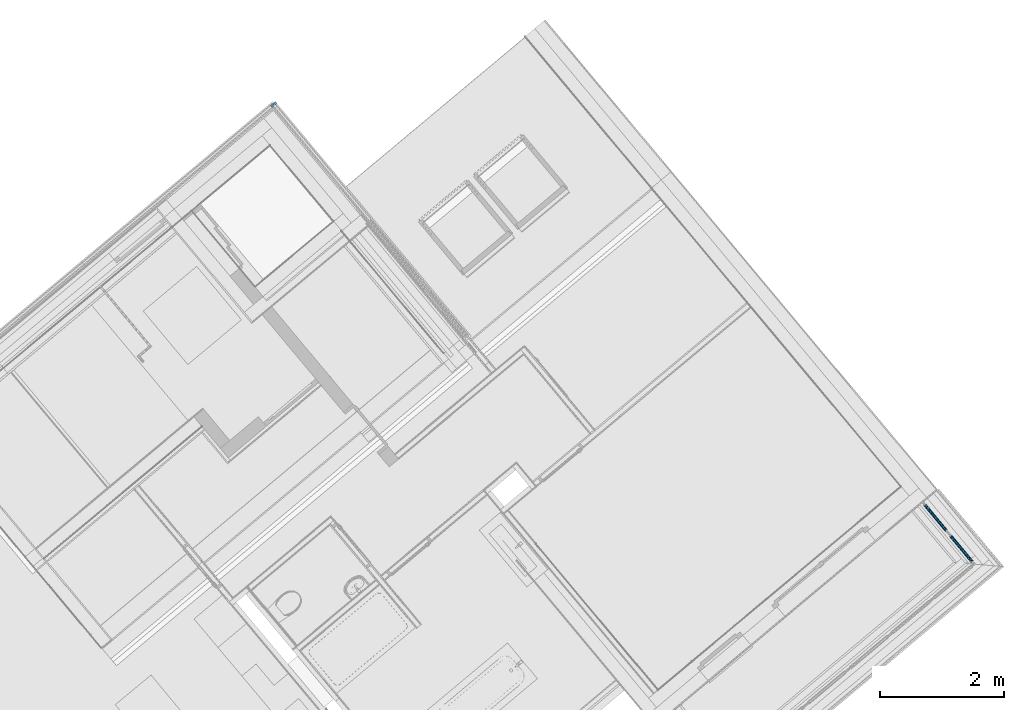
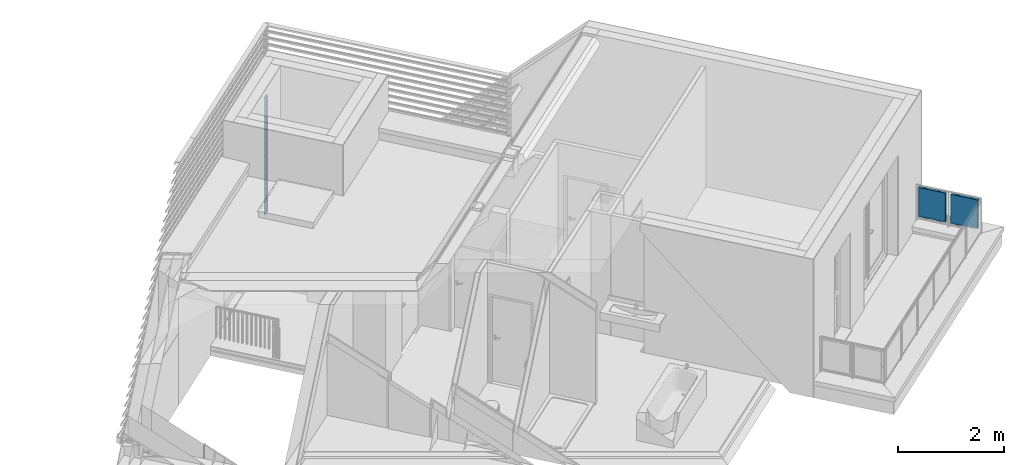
# One storey, part 45 of 50: 22 building element parts, 2 elements without a shape of their own.
"""IFC4 building model written with IfcOpenShell, lengths in metres."""

from ifc_helpers import new_model, entity, si_unit, converted_unit, derived_unit, direction, frame, origin_with_axes, place, context, subcontext, project, spatial, polygons, material, type_object, element, aggregate, save


model = new_model("IFC4")

# Units and contexts
model_context = context("Model", 3, precision=1e-05, world=origin_with_axes(), true_north=direction((0.0, 1.0)))
body_context = subcontext(model_context, "Body", "Model", "MODEL_VIEW")
ifc_project = project(units=[si_unit("LENGTHUNIT", "METRE"), si_unit("AREAUNIT", "SQUARE_METRE"), si_unit("VOLUMEUNIT", "CUBIC_METRE"), converted_unit("PLANEANGLEUNIT", "DEGREE", entity("IfcPlaneAngleMeasure", 0.0174532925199), si_unit("PLANEANGLEUNIT", "RADIAN"), dimensions=[0, 0, 0, 0, 0, 0, 0]), converted_unit("TIMEUNIT", "Year", entity("IfcTimeMeasure", 31556926.0), si_unit("TIMEUNIT", "SECOND"), dimensions=[0, 0, 1, 0, 0, 0, 0]), si_unit("MASSUNIT", "GRAM", prefix="KILO"), si_unit("THERMODYNAMICTEMPERATUREUNIT", "DEGREE_CELSIUS"), si_unit("LUMINOUSINTENSITYUNIT", "LUMEN"), si_unit("ENERGYUNIT", "JOULE", prefix="MEGA"), derived_unit("THERMALCONDUCTANCEUNIT", [(si_unit("POWERUNIT", "WATT"), 1), (si_unit("LENGTHUNIT", "METRE"), -1), (si_unit("THERMODYNAMICTEMPERATUREUNIT", "KELVIN"), -1)]), derived_unit("SPECIFICHEATCAPACITYUNIT", [(si_unit("ENERGYUNIT", "JOULE"), 1), (si_unit("MASSUNIT", "GRAM", prefix="KILO"), -1), (si_unit("THERMODYNAMICTEMPERATUREUNIT", "KELVIN"), -1)]), derived_unit("MASSDENSITYUNIT", [(si_unit("MASSUNIT", "GRAM", prefix="KILO"), 1), (si_unit("VOLUMEUNIT", "CUBIC_METRE"), -1)])], contexts=[model_context])

# Site, building, storey, space
site_placement = place(None, frame((-0.00153261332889, -0.00661245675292, 0.0), z_axis=(0.0, 0.0, 1.0), x_axis=(1.0, 0.0, 0.0)))
site = spatial("IfcSite", under=ifc_project, at=site_placement, Name="Gelände", CompositionType="ELEMENT")
building_placement = place(site_placement, origin_with_axes())
building = spatial("IfcBuilding", under=site, at=building_placement, Name="Gebäude", CompositionType="ELEMENT")
storey_placement = place(building_placement, frame((0.0, 0.0, 8.66), z_axis=(0.0, 0.0, 1.0), x_axis=(1.0, 0.0, 0.0)))
storey = spatial("IfcBuildingStorey", under=building, at=storey_placement, Name="DG2", CompositionType="ELEMENT", Elevation=8.66)
space_1_placement = place(storey_placement, frame((6.83696947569, 22.4856827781, 0.22), z_axis=(0.0, 0.0, 1.0), x_axis=(0.767365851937, 0.641209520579, 0.0)))
space_1 = spatial("IfcSpace", under=storey, at=space_1_placement, CompositionType="ELEMENT", PredefinedType="NOTDEFINED")

# Curtain wall, building element parts
curtain_wall_type = type_object("IfcCurtainWallType", Name="Fassadentyp", PredefinedType="NOTDEFINED")
curtain_wall_placement = place(space_1_placement, frame((-0.611260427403, 4.89750550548, 0.1), z_axis=(0.0, 0.0, 1.0), x_axis=(0.767365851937, -0.641209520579, 0.0)))
curtain_wall = element("IfcCurtainWall", 1, at=curtain_wall_placement, inside=space_1, type_object=curtain_wall_type, Name="Fassade-001", PredefinedType="NOTDEFINED")
ifc_material_1 = material(Name="Blech")
building_element_part_1_placement = place(curtain_wall_placement, origin_with_axes())
building_element_part_1 = element("IfcBuildingElementPart", 2, at=building_element_part_1_placement, material=ifc_material_1, Name="Blech", PredefinedType="NOTDEFINED", context=body_context, shape_type="Tessellation", body=[
    polygons([(-1.57788459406, 1.86580520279, 0.15), (-1.55485923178, 1.88503623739, 0.15), (-1.54203854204, 1.86968599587, 0.15), (-1.51517561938, 1.8921222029, 0.15), (-1.54081699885, 1.92282268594, 0.15), (-1.61756820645, 1.85871923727, 0.15), (-1.59192682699, 1.82801875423, 0.15), (-1.56506390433, 1.85045496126, 0.15), (-1.57788459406, 1.86580520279, 0.0), (-1.55485923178, 1.88503623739, 0.0), (-1.54203854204, 1.86968599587, 0.02), (-1.51517561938, 1.8921222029, 0.02), (-1.54081699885, 1.92282268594, -0.02), (-1.61756820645, 1.85871923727, -0.02), (-1.59192682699, 1.82801875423, 0.02), (-1.56506390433, 1.85045496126, 0.02)], [[[1, 2, 3, 4, 5, 6, 7, 8]], [[2, 1, 9, 10]], [[11, 3, 2, 10]], [[3, 11, 12, 4]], [[5, 4, 12, 13]], [[6, 5, 13, 14]], [[7, 6, 14, 15]], [[16, 8, 7, 15]], [[1, 8, 16, 9]], [[9, 16, 15, 14, 13, 12, 11, 10]]], closed=True),
])
building_element_part_2_placement = place(curtain_wall_placement, origin_with_axes())
building_element_part_2 = element("IfcBuildingElementPart", 3, at=building_element_part_2_placement, material=ifc_material_1, Name="Blech", PredefinedType="NOTDEFINED", context=body_context, shape_type="Tessellation", body=[
    polygons([(-1.57788459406, 1.86580520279, 0.3), (-1.55485923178, 1.88503623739, 0.3), (-1.54203854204, 1.86968599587, 0.3), (-1.51517561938, 1.8921222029, 0.3), (-1.54081699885, 1.92282268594, 0.3), (-1.61756820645, 1.85871923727, 0.3), (-1.59192682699, 1.82801875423, 0.3), (-1.56506390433, 1.85045496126, 0.3), (-1.57788459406, 1.86580520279, 0.15), (-1.55485923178, 1.88503623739, 0.15), (-1.54203854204, 1.86968599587, 0.15), (-1.51517561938, 1.8921222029, 0.15), (-1.54081699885, 1.92282268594, 0.15), (-1.61756820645, 1.85871923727, 0.15), (-1.59192682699, 1.82801875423, 0.15), (-1.56506390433, 1.85045496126, 0.15)], [[[1, 2, 3, 4, 5, 6, 7, 8]], [[2, 1, 9, 10]], [[11, 3, 2, 10]], [[3, 11, 12, 4]], [[13, 5, 4, 12]], [[14, 6, 5, 13]], [[15, 7, 6, 14]], [[16, 8, 7, 15]], [[1, 8, 16, 9]], [[9, 16, 15, 14, 13, 12, 11, 10]]], closed=True),
])
building_element_part_3_placement = place(curtain_wall_placement, origin_with_axes())
building_element_part_3 = element("IfcBuildingElementPart", 4, at=building_element_part_3_placement, material=ifc_material_1, Name="Blech", PredefinedType="NOTDEFINED", context=body_context, shape_type="Tessellation", body=[
    polygons([(-1.57788459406, 1.86580520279, 0.45), (-1.55485923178, 1.88503623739, 0.45), (-1.54203854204, 1.86968599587, 0.45), (-1.51517561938, 1.8921222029, 0.45), (-1.54081699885, 1.92282268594, 0.45), (-1.61756820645, 1.85871923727, 0.45), (-1.59192682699, 1.82801875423, 0.45), (-1.56506390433, 1.85045496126, 0.45), (-1.57788459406, 1.86580520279, 0.3), (-1.55485923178, 1.88503623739, 0.3), (-1.54203854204, 1.86968599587, 0.3), (-1.51517561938, 1.8921222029, 0.3), (-1.54081699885, 1.92282268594, 0.3), (-1.61756820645, 1.85871923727, 0.3), (-1.59192682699, 1.82801875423, 0.3), (-1.56506390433, 1.85045496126, 0.3)], [[[1, 2, 3, 4, 5, 6, 7, 8]], [[2, 1, 9, 10]], [[11, 3, 2, 10]], [[3, 11, 12, 4]], [[13, 5, 4, 12]], [[14, 6, 5, 13]], [[15, 7, 6, 14]], [[16, 8, 7, 15]], [[1, 8, 16, 9]], [[9, 16, 15, 14, 13, 12, 11, 10]]], closed=True),
])
building_element_part_4_placement = place(curtain_wall_placement, origin_with_axes())
building_element_part_4 = element("IfcBuildingElementPart", 5, at=building_element_part_4_placement, material=ifc_material_1, Name="Blech", PredefinedType="NOTDEFINED", context=body_context, shape_type="Tessellation", body=[
    polygons([(-1.57788459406, 1.86580520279, 0.6), (-1.55485923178, 1.88503623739, 0.6), (-1.54203854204, 1.86968599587, 0.6), (-1.51517561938, 1.8921222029, 0.6), (-1.54081699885, 1.92282268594, 0.6), (-1.61756820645, 1.85871923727, 0.6), (-1.59192682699, 1.82801875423, 0.6), (-1.56506390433, 1.85045496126, 0.6), (-1.57788459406, 1.86580520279, 0.45), (-1.55485923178, 1.88503623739, 0.45), (-1.54203854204, 1.86968599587, 0.45), (-1.51517561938, 1.8921222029, 0.45), (-1.54081699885, 1.92282268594, 0.45), (-1.61756820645, 1.85871923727, 0.45), (-1.59192682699, 1.82801875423, 0.45), (-1.56506390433, 1.85045496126, 0.45)], [[[1, 2, 3, 4, 5, 6, 7, 8]], [[2, 1, 9, 10]], [[11, 3, 2, 10]], [[3, 11, 12, 4]], [[13, 5, 4, 12]], [[14, 6, 5, 13]], [[15, 7, 6, 14]], [[16, 8, 7, 15]], [[1, 8, 16, 9]], [[9, 16, 15, 14, 13, 12, 11, 10]]], closed=True),
])
building_element_part_5_placement = place(curtain_wall_placement, origin_with_axes())
building_element_part_5 = element("IfcBuildingElementPart", 6, at=building_element_part_5_placement, material=ifc_material_1, Name="Blech", PredefinedType="NOTDEFINED", context=body_context, shape_type="Tessellation", body=[
    polygons([(-1.57788459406, 1.86580520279, 0.75), (-1.55485923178, 1.88503623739, 0.75), (-1.54203854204, 1.86968599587, 0.75), (-1.51517561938, 1.8921222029, 0.75), (-1.54081699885, 1.92282268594, 0.75), (-1.61756820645, 1.85871923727, 0.75), (-1.59192682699, 1.82801875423, 0.75), (-1.56506390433, 1.85045496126, 0.75), (-1.57788459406, 1.86580520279, 0.6), (-1.55485923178, 1.88503623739, 0.6), (-1.54203854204, 1.86968599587, 0.6), (-1.51517561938, 1.8921222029, 0.6), (-1.54081699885, 1.92282268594, 0.6), (-1.61756820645, 1.85871923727, 0.6), (-1.59192682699, 1.82801875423, 0.6), (-1.56506390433, 1.85045496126, 0.6)], [[[1, 2, 3, 4, 5, 6, 7, 8]], [[2, 1, 9, 10]], [[11, 3, 2, 10]], [[3, 11, 12, 4]], [[13, 5, 4, 12]], [[14, 6, 5, 13]], [[15, 7, 6, 14]], [[16, 8, 7, 15]], [[1, 8, 16, 9]], [[9, 16, 15, 14, 13, 12, 11, 10]]], closed=True),
])
building_element_part_6_placement = place(curtain_wall_placement, origin_with_axes())
building_element_part_6 = element("IfcBuildingElementPart", 7, at=building_element_part_6_placement, material=ifc_material_1, Name="Blech", PredefinedType="NOTDEFINED", context=body_context, shape_type="Tessellation", body=[
    polygons([(-1.57788459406, 1.86580520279, 0.9), (-1.55485923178, 1.88503623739, 0.9), (-1.54203854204, 1.86968599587, 0.9), (-1.51517561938, 1.8921222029, 0.9), (-1.54081699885, 1.92282268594, 0.9), (-1.61756820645, 1.85871923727, 0.9), (-1.59192682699, 1.82801875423, 0.9), (-1.56506390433, 1.85045496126, 0.9), (-1.57788459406, 1.86580520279, 0.75), (-1.55485923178, 1.88503623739, 0.75), (-1.54203854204, 1.86968599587, 0.75), (-1.51517561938, 1.8921222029, 0.75), (-1.54081699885, 1.92282268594, 0.75), (-1.61756820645, 1.85871923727, 0.75), (-1.59192682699, 1.82801875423, 0.75), (-1.56506390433, 1.85045496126, 0.75)], [[[1, 2, 3, 4, 5, 6, 7, 8]], [[2, 1, 9, 10]], [[11, 3, 2, 10]], [[3, 11, 12, 4]], [[13, 5, 4, 12]], [[14, 6, 5, 13]], [[15, 7, 6, 14]], [[16, 8, 7, 15]], [[1, 8, 16, 9]], [[9, 16, 15, 14, 13, 12, 11, 10]]], closed=True),
])
building_element_part_7_placement = place(curtain_wall_placement, origin_with_axes())
building_element_part_7 = element("IfcBuildingElementPart", 8, at=building_element_part_7_placement, material=ifc_material_1, Name="Blech", PredefinedType="NOTDEFINED", context=body_context, shape_type="Tessellation", body=[
    polygons([(-1.57788459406, 1.86580520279, 1.05), (-1.55485923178, 1.88503623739, 1.05), (-1.54203854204, 1.86968599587, 1.05), (-1.51517561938, 1.8921222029, 1.05), (-1.54081699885, 1.92282268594, 1.05), (-1.61756820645, 1.85871923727, 1.05), (-1.59192682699, 1.82801875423, 1.05), (-1.56506390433, 1.85045496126, 1.05), (-1.57788459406, 1.86580520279, 0.9), (-1.55485923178, 1.88503623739, 0.9), (-1.54203854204, 1.86968599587, 0.9), (-1.51517561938, 1.8921222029, 0.9), (-1.54081699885, 1.92282268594, 0.9), (-1.61756820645, 1.85871923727, 0.9), (-1.59192682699, 1.82801875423, 0.9), (-1.56506390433, 1.85045496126, 0.9)], [[[1, 2, 3, 4, 5, 6, 7, 8]], [[2, 1, 9, 10]], [[11, 3, 2, 10]], [[3, 11, 12, 4]], [[13, 5, 4, 12]], [[14, 6, 5, 13]], [[15, 7, 6, 14]], [[16, 8, 7, 15]], [[1, 8, 16, 9]], [[9, 16, 15, 14, 13, 12, 11, 10]]], closed=True),
])
building_element_part_8_placement = place(curtain_wall_placement, origin_with_axes())
building_element_part_8 = element("IfcBuildingElementPart", 9, at=building_element_part_8_placement, material=ifc_material_1, Name="Blech", PredefinedType="NOTDEFINED", context=body_context, shape_type="Tessellation", body=[
    polygons([(-1.57788459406, 1.86580520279, 1.2), (-1.55485923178, 1.88503623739, 1.2), (-1.54203854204, 1.86968599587, 1.2), (-1.51517561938, 1.8921222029, 1.2), (-1.54081699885, 1.92282268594, 1.2), (-1.61756820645, 1.85871923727, 1.2), (-1.59192682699, 1.82801875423, 1.2), (-1.56506390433, 1.85045496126, 1.2), (-1.57788459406, 1.86580520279, 1.05), (-1.55485923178, 1.88503623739, 1.05), (-1.54203854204, 1.86968599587, 1.05), (-1.51517561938, 1.8921222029, 1.05), (-1.54081699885, 1.92282268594, 1.05), (-1.61756820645, 1.85871923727, 1.05), (-1.59192682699, 1.82801875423, 1.05), (-1.56506390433, 1.85045496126, 1.05)], [[[1, 2, 3, 4, 5, 6, 7, 8]], [[2, 1, 9, 10]], [[11, 3, 2, 10]], [[3, 11, 12, 4]], [[13, 5, 4, 12]], [[14, 6, 5, 13]], [[15, 7, 6, 14]], [[16, 8, 7, 15]], [[1, 8, 16, 9]], [[9, 16, 15, 14, 13, 12, 11, 10]]], closed=True),
])
building_element_part_9_placement = place(curtain_wall_placement, origin_with_axes())
building_element_part_9 = element("IfcBuildingElementPart", 10, at=building_element_part_9_placement, material=ifc_material_1, Name="Blech", PredefinedType="NOTDEFINED", context=body_context, shape_type="Tessellation", body=[
    polygons([(-1.57788459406, 1.86580520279, 1.35), (-1.55485923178, 1.88503623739, 1.35), (-1.54203854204, 1.86968599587, 1.35), (-1.51517561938, 1.8921222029, 1.35), (-1.54081699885, 1.92282268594, 1.35), (-1.61756820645, 1.85871923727, 1.35), (-1.59192682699, 1.82801875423, 1.35), (-1.56506390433, 1.85045496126, 1.35), (-1.57788459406, 1.86580520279, 1.2), (-1.55485923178, 1.88503623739, 1.2), (-1.54203854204, 1.86968599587, 1.2), (-1.51517561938, 1.8921222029, 1.2), (-1.54081699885, 1.92282268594, 1.2), (-1.61756820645, 1.85871923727, 1.2), (-1.59192682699, 1.82801875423, 1.2), (-1.56506390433, 1.85045496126, 1.2)], [[[1, 2, 3, 4, 5, 6, 7, 8]], [[2, 1, 9, 10]], [[11, 3, 2, 10]], [[3, 11, 12, 4]], [[13, 5, 4, 12]], [[14, 6, 5, 13]], [[15, 7, 6, 14]], [[16, 8, 7, 15]], [[1, 8, 16, 9]], [[9, 16, 15, 14, 13, 12, 11, 10]]], closed=True),
])
building_element_part_10_placement = place(curtain_wall_placement, origin_with_axes())
building_element_part_10 = element("IfcBuildingElementPart", 11, at=building_element_part_10_placement, material=ifc_material_1, Name="Blech", PredefinedType="NOTDEFINED", context=body_context, shape_type="Tessellation", body=[
    polygons([(-1.57788459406, 1.86580520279, 1.5), (-1.55485923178, 1.88503623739, 1.5), (-1.54203854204, 1.86968599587, 1.5), (-1.51517561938, 1.8921222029, 1.5), (-1.54081699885, 1.92282268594, 1.5), (-1.61756820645, 1.85871923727, 1.5), (-1.59192682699, 1.82801875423, 1.5), (-1.56506390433, 1.85045496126, 1.5), (-1.57788459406, 1.86580520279, 1.35), (-1.55485923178, 1.88503623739, 1.35), (-1.54203854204, 1.86968599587, 1.35), (-1.51517561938, 1.8921222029, 1.35), (-1.54081699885, 1.92282268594, 1.35), (-1.61756820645, 1.85871923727, 1.35), (-1.59192682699, 1.82801875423, 1.35), (-1.56506390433, 1.85045496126, 1.35)], [[[1, 2, 3, 4, 5, 6, 7, 8]], [[2, 1, 9, 10]], [[11, 3, 2, 10]], [[3, 11, 12, 4]], [[13, 5, 4, 12]], [[14, 6, 5, 13]], [[15, 7, 6, 14]], [[16, 8, 7, 15]], [[1, 8, 16, 9]], [[9, 16, 15, 14, 13, 12, 11, 10]]], closed=True),
])
building_element_part_11_placement = place(curtain_wall_placement, origin_with_axes())
building_element_part_11 = element("IfcBuildingElementPart", 12, at=building_element_part_11_placement, material=ifc_material_1, Name="Blech", PredefinedType="NOTDEFINED", context=body_context, shape_type="Tessellation", body=[
    polygons([(-1.57788459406, 1.86580520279, 1.65), (-1.55485923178, 1.88503623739, 1.65), (-1.54203854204, 1.86968599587, 1.65), (-1.51517561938, 1.8921222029, 1.65), (-1.54081699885, 1.92282268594, 1.65), (-1.61756820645, 1.85871923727, 1.65), (-1.59192682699, 1.82801875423, 1.65), (-1.56506390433, 1.85045496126, 1.65), (-1.57788459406, 1.86580520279, 1.5), (-1.55485923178, 1.88503623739, 1.5), (-1.54203854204, 1.86968599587, 1.5), (-1.51517561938, 1.8921222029, 1.5), (-1.54081699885, 1.92282268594, 1.5), (-1.61756820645, 1.85871923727, 1.5), (-1.59192682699, 1.82801875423, 1.5), (-1.56506390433, 1.85045496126, 1.5)], [[[1, 2, 3, 4, 5, 6, 7, 8]], [[2, 1, 9, 10]], [[11, 3, 2, 10]], [[3, 11, 12, 4]], [[13, 5, 4, 12]], [[14, 6, 5, 13]], [[15, 7, 6, 14]], [[16, 8, 7, 15]], [[1, 8, 16, 9]], [[9, 16, 15, 14, 13, 12, 11, 10]]], closed=True),
])
building_element_part_12_placement = place(curtain_wall_placement, origin_with_axes())
building_element_part_12 = element("IfcBuildingElementPart", 13, at=building_element_part_12_placement, material=ifc_material_1, Name="Blech", PredefinedType="NOTDEFINED", context=body_context, shape_type="Tessellation", body=[
    polygons([(-1.57788459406, 1.86580520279, 1.8), (-1.55485923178, 1.88503623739, 1.8), (-1.54203854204, 1.86968599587, 1.8), (-1.51517561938, 1.8921222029, 1.8), (-1.54081699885, 1.92282268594, 1.8), (-1.61756820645, 1.85871923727, 1.8), (-1.59192682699, 1.82801875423, 1.8), (-1.56506390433, 1.85045496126, 1.8), (-1.57788459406, 1.86580520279, 1.65), (-1.55485923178, 1.88503623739, 1.65), (-1.54203854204, 1.86968599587, 1.65), (-1.51517561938, 1.8921222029, 1.65), (-1.54081699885, 1.92282268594, 1.65), (-1.61756820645, 1.85871923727, 1.65), (-1.59192682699, 1.82801875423, 1.65), (-1.56506390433, 1.85045496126, 1.65)], [[[1, 2, 3, 4, 5, 6, 7, 8]], [[2, 1, 9, 10]], [[11, 3, 2, 10]], [[3, 11, 12, 4]], [[13, 5, 4, 12]], [[14, 6, 5, 13]], [[15, 7, 6, 14]], [[16, 8, 7, 15]], [[1, 8, 16, 9]], [[9, 16, 15, 14, 13, 12, 11, 10]]], closed=True),
])
building_element_part_13_placement = place(curtain_wall_placement, origin_with_axes())
building_element_part_13 = element("IfcBuildingElementPart", 14, at=building_element_part_13_placement, material=ifc_material_1, Name="Blech", PredefinedType="NOTDEFINED", context=body_context, shape_type="Tessellation", body=[
    polygons([(-1.57788459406, 1.86580520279, 1.95), (-1.55485923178, 1.88503623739, 1.95), (-1.54203854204, 1.86968599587, 1.95), (-1.51517561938, 1.8921222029, 1.95), (-1.54081699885, 1.92282268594, 1.95), (-1.61756820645, 1.85871923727, 1.95), (-1.59192682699, 1.82801875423, 1.95), (-1.56506390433, 1.85045496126, 1.95), (-1.57788459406, 1.86580520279, 1.8), (-1.55485923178, 1.88503623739, 1.8), (-1.54203854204, 1.86968599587, 1.8), (-1.51517561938, 1.8921222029, 1.8), (-1.54081699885, 1.92282268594, 1.8), (-1.61756820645, 1.85871923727, 1.8), (-1.59192682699, 1.82801875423, 1.8), (-1.56506390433, 1.85045496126, 1.8)], [[[1, 2, 3, 4, 5, 6, 7, 8]], [[2, 1, 9, 10]], [[11, 3, 2, 10]], [[3, 11, 12, 4]], [[13, 5, 4, 12]], [[14, 6, 5, 13]], [[15, 7, 6, 14]], [[16, 8, 7, 15]], [[1, 8, 16, 9]], [[9, 16, 15, 14, 13, 12, 11, 10]]], closed=True),
])
building_element_part_14_placement = place(curtain_wall_placement, origin_with_axes())
building_element_part_14 = element("IfcBuildingElementPart", 15, at=building_element_part_14_placement, material=ifc_material_1, Name="Blech", PredefinedType="NOTDEFINED", context=body_context, shape_type="Tessellation", body=[
    polygons([(-1.57788459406, 1.86580520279, 2.1), (-1.55485923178, 1.88503623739, 2.1), (-1.54203854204, 1.86968599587, 2.1), (-1.51517561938, 1.8921222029, 2.1), (-1.54081699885, 1.92282268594, 2.1), (-1.61756820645, 1.85871923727, 2.1), (-1.59192682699, 1.82801875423, 2.1), (-1.56506390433, 1.85045496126, 2.1), (-1.57788459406, 1.86580520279, 1.95), (-1.55485923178, 1.88503623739, 1.95), (-1.54203854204, 1.86968599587, 1.95), (-1.51517561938, 1.8921222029, 1.95), (-1.54081699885, 1.92282268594, 1.95), (-1.61756820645, 1.85871923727, 1.95), (-1.59192682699, 1.82801875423, 1.95), (-1.56506390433, 1.85045496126, 1.95)], [[[1, 2, 3, 4, 5, 6, 7, 8]], [[2, 1, 9, 10]], [[11, 3, 2, 10]], [[3, 11, 12, 4]], [[13, 5, 4, 12]], [[14, 6, 5, 13]], [[15, 7, 6, 14]], [[16, 8, 7, 15]], [[1, 8, 16, 9]], [[9, 16, 15, 14, 13, 12, 11, 10]]], closed=True),
])
building_element_part_15_placement = place(curtain_wall_placement, origin_with_axes())
building_element_part_15 = element("IfcBuildingElementPart", 16, at=building_element_part_15_placement, material=ifc_material_1, Name="Blech", PredefinedType="NOTDEFINED", context=body_context, shape_type="Tessellation", body=[
    polygons([(-1.57788459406, 1.86580520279, 2.25), (-1.55485923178, 1.88503623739, 2.25), (-1.54203854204, 1.86968599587, 2.25), (-1.51517561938, 1.8921222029, 2.25), (-1.54081699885, 1.92282268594, 2.25), (-1.61756820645, 1.85871923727, 2.25), (-1.59192682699, 1.82801875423, 2.25), (-1.56506390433, 1.85045496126, 2.25), (-1.57788459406, 1.86580520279, 2.1), (-1.55485923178, 1.88503623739, 2.1), (-1.54203854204, 1.86968599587, 2.1), (-1.51517561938, 1.8921222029, 2.1), (-1.54081699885, 1.92282268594, 2.1), (-1.61756820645, 1.85871923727, 2.1), (-1.59192682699, 1.82801875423, 2.1), (-1.56506390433, 1.85045496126, 2.1)], [[[1, 2, 3, 4, 5, 6, 7, 8]], [[2, 1, 9, 10]], [[11, 3, 2, 10]], [[3, 11, 12, 4]], [[13, 5, 4, 12]], [[14, 6, 5, 13]], [[15, 7, 6, 14]], [[16, 8, 7, 15]], [[1, 8, 16, 9]], [[9, 16, 15, 14, 13, 12, 11, 10]]], closed=True),
])
building_element_part_16_placement = place(curtain_wall_placement, origin_with_axes())
building_element_part_16 = element("IfcBuildingElementPart", 17, at=building_element_part_16_placement, material=ifc_material_1, Name="Blech", PredefinedType="NOTDEFINED", context=body_context, shape_type="Tessellation", body=[
    polygons([(-1.57788459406, 1.86580520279, 2.4), (-1.55485923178, 1.88503623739, 2.4), (-1.54203854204, 1.86968599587, 2.4), (-1.51517561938, 1.8921222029, 2.4), (-1.54081699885, 1.92282268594, 2.4), (-1.61756820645, 1.85871923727, 2.4), (-1.59192682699, 1.82801875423, 2.4), (-1.56506390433, 1.85045496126, 2.4), (-1.57788459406, 1.86580520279, 2.25), (-1.55485923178, 1.88503623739, 2.25), (-1.54203854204, 1.86968599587, 2.25), (-1.51517561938, 1.8921222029, 2.25), (-1.54081699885, 1.92282268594, 2.25), (-1.61756820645, 1.85871923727, 2.25), (-1.59192682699, 1.82801875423, 2.25), (-1.56506390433, 1.85045496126, 2.25)], [[[1, 2, 3, 4, 5, 6, 7, 8]], [[2, 1, 9, 10]], [[11, 3, 2, 10]], [[3, 11, 12, 4]], [[13, 5, 4, 12]], [[14, 6, 5, 13]], [[15, 7, 6, 14]], [[16, 8, 7, 15]], [[1, 8, 16, 9]], [[9, 16, 15, 14, 13, 12, 11, 10]]], closed=True),
])
building_element_part_17_placement = place(curtain_wall_placement, origin_with_axes())
building_element_part_17 = element("IfcBuildingElementPart", 18, at=building_element_part_17_placement, material=ifc_material_1, Name="Blech", PredefinedType="NOTDEFINED", context=body_context, shape_type="Tessellation", body=[
    polygons([(-1.57788459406, 1.86580520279, 2.55), (-1.55485923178, 1.88503623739, 2.55), (-1.54203854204, 1.86968599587, 2.55), (-1.51517561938, 1.8921222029, 2.55), (-1.54081699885, 1.92282268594, 2.55), (-1.61756820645, 1.85871923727, 2.55), (-1.59192682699, 1.82801875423, 2.55), (-1.56506390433, 1.85045496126, 2.55), (-1.57788459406, 1.86580520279, 2.4), (-1.55485923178, 1.88503623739, 2.4), (-1.54203854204, 1.86968599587, 2.4), (-1.51517561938, 1.8921222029, 2.4), (-1.54081699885, 1.92282268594, 2.4), (-1.61756820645, 1.85871923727, 2.4), (-1.59192682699, 1.82801875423, 2.4), (-1.56506390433, 1.85045496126, 2.4)], [[[1, 2, 3, 4, 5, 6, 7, 8]], [[2, 1, 9, 10]], [[11, 3, 2, 10]], [[3, 11, 12, 4]], [[13, 5, 4, 12]], [[14, 6, 5, 13]], [[15, 7, 6, 14]], [[16, 8, 7, 15]], [[1, 8, 16, 9]], [[9, 16, 15, 14, 13, 12, 11, 10]]], closed=True),
])
building_element_part_18_placement = place(curtain_wall_placement, origin_with_axes())
building_element_part_18 = element("IfcBuildingElementPart", 19, at=building_element_part_18_placement, material=ifc_material_1, Name="Blech", PredefinedType="NOTDEFINED", context=body_context, shape_type="Tessellation", body=[
    polygons([(-1.57788459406, 1.86580520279, 2.7), (-1.55485923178, 1.88503623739, 2.7), (-1.54203854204, 1.86968599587, 2.7), (-1.51517561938, 1.8921222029, 2.7), (-1.54081699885, 1.92282268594, 2.7), (-1.61756820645, 1.85871923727, 2.7), (-1.59192682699, 1.82801875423, 2.7), (-1.56506390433, 1.85045496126, 2.7), (-1.57788459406, 1.86580520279, 2.55), (-1.55485923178, 1.88503623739, 2.55), (-1.54203854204, 1.86968599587, 2.55), (-1.51517561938, 1.8921222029, 2.55), (-1.54081699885, 1.92282268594, 2.55), (-1.61756820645, 1.85871923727, 2.55), (-1.59192682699, 1.82801875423, 2.55), (-1.56506390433, 1.85045496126, 2.55)], [[[1, 2, 3, 4, 5, 6, 7, 8]], [[2, 1, 9, 10]], [[11, 3, 2, 10]], [[3, 11, 12, 4]], [[13, 5, 4, 12]], [[14, 6, 5, 13]], [[15, 7, 6, 14]], [[16, 8, 7, 15]], [[1, 8, 16, 9]], [[9, 16, 15, 14, 13, 12, 11, 10]]], closed=True),
])
aggregate(curtain_wall, [building_element_part_1, building_element_part_2, building_element_part_3, building_element_part_4, building_element_part_5, building_element_part_6, building_element_part_7, building_element_part_8, building_element_part_9, building_element_part_10, building_element_part_11, building_element_part_12, building_element_part_13, building_element_part_14, building_element_part_15, building_element_part_16, building_element_part_17, building_element_part_18])

# Space
space_2_placement = place(storey_placement, frame((8.90864671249, 17.2360299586, 0.22), z_axis=(0.0, 0.0, 1.0), x_axis=(0.766948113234, 0.641709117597, 0.0)))
space_2 = spatial("IfcSpace", under=storey, at=space_2_placement, CompositionType="ELEMENT", PredefinedType="NOTDEFINED")

# Railing, building element parts
railing_type = type_object("IfcRailingType", Name="Geländerart", PredefinedType="NOTDEFINED")
railing_placement = place(space_2_placement, frame((-0.182063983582, 1.04564583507, 0.16), z_axis=(0.0, 0.0, 1.0), x_axis=(0.766948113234, -0.641709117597, 0.0)))
railing = element("IfcRailing", 20, at=railing_placement, inside=space_2, type_object=railing_type, Name="Geländer - 001", PredefinedType="NOTDEFINED")
ifc_material_2 = material(Name="Profilit")
building_element_part_19_placement = place(railing_placement, origin_with_axes())
building_element_part_19 = element("IfcBuildingElementPart", 21, at=building_element_part_19_placement, material=ifc_material_2, Name="Profilit", PredefinedType="NOTDEFINED", context=body_context, shape_type="Tessellation", body=[
    polygons([(4.47547779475, 2.83769919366, 0.135), (4.80704625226, 2.43928812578, 0.135), (4.80704625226, 2.43928812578, 0.775), (4.47547779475, 2.83769919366, 0.775), (4.8224190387, 2.4520817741, 0.135), (4.49085058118, 2.85049284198, 0.135), (4.8224190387, 2.4520817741, 0.775), (4.49085058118, 2.85049284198, 0.775)], [[[1, 2, 3, 4]], [[5, 2, 1, 6]], [[7, 3, 2, 5]], [[4, 3, 7, 8]], [[1, 4, 8, 6]], [[7, 5, 6, 8]]], closed=True),
])
ifc_material_3 = material(Name="Aluminium")
building_element_part_20_placement = place(railing_placement, origin_with_axes())
building_element_part_20 = element("IfcBuildingElementPart", 22, at=building_element_part_20_placement, material=ifc_material_3, Name="Aluminium", PredefinedType="NOTDEFINED", context=body_context, shape_type="Tessellation", body=[
    polygons([(4.75843804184, 2.50942008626, 0.12), (4.71366027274, 2.56322483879, 0.12), (4.71366027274, 2.56322483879, 0.095), (4.75843804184, 2.50942008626, 0.095), (4.76228123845, 2.51261849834, 0.12), (4.71750346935, 2.56642325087, 0.12), (4.71750346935, 2.56642325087, 0.095), (4.76228123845, 2.51261849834, 0.095)], [[[1, 2, 3, 4]], [[5, 6, 2, 1]], [[2, 6, 7, 3]], [[4, 3, 7, 8]], [[1, 4, 8, 5]], [[8, 7, 6, 5]]], closed=True),
    polygons([(4.58039336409, 2.72335771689, 0.12), (4.53561559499, 2.77716246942, 0.12), (4.53561559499, 2.77716246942, 0.095), (4.58039336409, 2.72335771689, 0.095), (4.5842365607, 2.72655612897, 0.12), (4.5394587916, 2.7803608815, 0.12), (4.5394587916, 2.7803608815, 0.095), (4.5842365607, 2.72655612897, 0.095)], [[[1, 2, 3, 4]], [[5, 6, 2, 1]], [[2, 6, 7, 3]], [[4, 3, 7, 8]], [[1, 4, 8, 5]], [[8, 7, 6, 5]]], closed=True),
    polygons([(4.53561559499, 2.77716246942, 0.79), (4.58039336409, 2.72335771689, 0.79), (4.58039336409, 2.72335771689, 0.795), (4.53561559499, 2.77716246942, 0.795), (4.5394587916, 2.7803608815, 0.79), (4.5842365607, 2.72655612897, 0.79), (4.5842365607, 2.72655612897, 0.795), (4.5394587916, 2.7803608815, 0.795)], [[[1, 2, 3, 4]], [[5, 6, 2, 1]], [[2, 6, 7, 3]], [[4, 3, 7, 8]], [[1, 4, 8, 5]], [[8, 7, 6, 5]]], closed=True),
    polygons([(4.71366027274, 2.56322483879, 0.79), (4.75843804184, 2.50942008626, 0.79), (4.75843804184, 2.50942008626, 0.795), (4.71366027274, 2.56322483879, 0.795), (4.71750346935, 2.56642325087, 0.79), (4.76228123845, 2.51261849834, 0.79), (4.76228123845, 2.51261849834, 0.795), (4.71750346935, 2.56642325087, 0.795)], [[[1, 2, 3, 4]], [[5, 6, 2, 1]], [[2, 6, 7, 3]], [[4, 3, 7, 8]], [[1, 4, 8, 5]], [[8, 7, 6, 5]]], closed=True),
    polygons([(4.84354386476, 2.4501474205, 0.12), (4.80511189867, 2.41816329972, 0.12), (4.45435296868, 2.83963354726, 0.12), (4.49278493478, 2.87161766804, 0.12), (4.83075021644, 2.46552020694, 0.14), (4.81922062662, 2.45592497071, 0.14), (4.8224190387, 2.4520817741, 0.135), (4.80704625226, 2.43928812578, 0.135), (4.80384784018, 2.44313132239, 0.14), (4.79231825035, 2.43353608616, 0.14), (4.467146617, 2.82426076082, 0.14), (4.467146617, 2.82426076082, 0.77), (4.79231825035, 2.43353608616, 0.77), (4.79231825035, 2.43353608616, 0.14), (4.80511189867, 2.41816329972, 0.12), (4.80511189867, 2.41816329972, 0.79), (4.45435296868, 2.83963354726, 0.79), (4.49278493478, 2.87161766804, 0.79), (4.84354386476, 2.4501474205, 0.79), (4.84354386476, 2.4501474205, 0.12), (4.83075021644, 2.46552020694, 0.14), (4.83075021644, 2.46552020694, 0.77), (4.50557858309, 2.8562448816, 0.77), (4.50557858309, 2.8562448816, 0.14), (4.49404899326, 2.84664964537, 0.14), (4.49404899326, 2.84664964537, 0.77), (4.81922062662, 2.45592497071, 0.77), (4.81922062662, 2.45592497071, 0.14), (4.8224190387, 2.4520817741, 0.135), (4.8224190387, 2.4520817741, 0.775), (4.49085058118, 2.85049284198, 0.775), (4.49085058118, 2.85049284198, 0.135), (4.47547779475, 2.83769919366, 0.135), (4.47547779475, 2.83769919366, 0.775), (4.80704625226, 2.43928812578, 0.775), (4.80704625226, 2.43928812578, 0.135), (4.80384784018, 2.44313132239, 0.14), (4.80384784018, 2.44313132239, 0.77), (4.47867620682, 2.83385599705, 0.77), (4.47867620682, 2.83385599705, 0.14)], [[[1, 2, 3, 4]], [[1, 5, 6, 7, 8, 9, 10, 2]], [[2, 10, 11, 12, 13, 14, 15, 16, 17, 3]], [[4, 3, 17, 18]], [[5, 1, 4, 18, 19, 20, 21, 22, 23, 24]], [[6, 5, 24, 25]], [[7, 6, 25, 26, 27, 28, 29, 30, 31, 32]], [[8, 7, 32, 33]], [[9, 8, 33, 34, 35, 36, 37, 38, 39, 40]], [[10, 9, 40, 11]], [[11, 40, 39, 12]], [[12, 39, 38, 13]], [[13, 38, 37, 14]], [[20, 15, 14, 37, 36, 29, 28, 21]], [[19, 16, 15, 20]], [[18, 17, 16, 19]], [[27, 22, 21, 28]], [[26, 23, 22, 27]], [[25, 24, 23, 26]], [[35, 30, 29, 36]], [[34, 31, 30, 35]], [[33, 32, 31, 34]]], closed=True),
])
building_element_part_21_placement = place(railing_placement, origin_with_axes())
building_element_part_21 = element("IfcBuildingElementPart", 23, at=building_element_part_21_placement, material=ifc_material_2, Name="Profilit", PredefinedType="NOTDEFINED", context=body_context, shape_type="Tessellation", body=[
    polygons([(4.0607506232, 3.33603337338, 0.135), (4.39231908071, 2.9376223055, 0.135), (4.39231908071, 2.9376223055, 0.775), (4.0607506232, 3.33603337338, 0.775), (4.40769186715, 2.95041595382, 0.135), (4.07612340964, 3.3488270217, 0.135), (4.40769186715, 2.95041595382, 0.775), (4.07612340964, 3.3488270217, 0.775)], [[[1, 2, 3, 4]], [[5, 2, 1, 6]], [[7, 3, 2, 5]], [[4, 3, 7, 8]], [[1, 4, 8, 6]], [[7, 5, 6, 8]]], closed=True),
])
building_element_part_22_placement = place(railing_placement, origin_with_axes())
building_element_part_22 = element("IfcBuildingElementPart", 24, at=building_element_part_22_placement, material=ifc_material_3, Name="Aluminium", PredefinedType="NOTDEFINED", context=body_context, shape_type="Tessellation", body=[
    polygons([(4.34371087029, 3.00775426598, 0.12), (4.2989331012, 3.06155901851, 0.12), (4.2989331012, 3.06155901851, 0.095), (4.34371087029, 3.00775426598, 0.095), (4.3475540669, 3.01095267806, 0.12), (4.30277629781, 3.06475743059, 0.12), (4.30277629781, 3.06475743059, 0.095), (4.3475540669, 3.01095267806, 0.095)], [[[1, 2, 3, 4]], [[5, 6, 2, 1]], [[2, 6, 7, 3]], [[4, 3, 7, 8]], [[1, 4, 8, 5]], [[8, 7, 6, 5]]], closed=True),
    polygons([(4.16566619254, 3.22169189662, 0.12), (4.12088842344, 3.27549664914, 0.12), (4.12088842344, 3.27549664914, 0.095), (4.16566619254, 3.22169189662, 0.095), (4.16950938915, 3.22489030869, 0.12), (4.12473162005, 3.27869506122, 0.12), (4.12473162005, 3.27869506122, 0.095), (4.16950938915, 3.22489030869, 0.095)], [[[1, 2, 3, 4]], [[5, 6, 2, 1]], [[2, 6, 7, 3]], [[4, 3, 7, 8]], [[1, 4, 8, 5]], [[8, 7, 6, 5]]], closed=True),
    polygons([(4.12088842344, 3.27549664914, 0.79), (4.16566619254, 3.22169189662, 0.79), (4.16566619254, 3.22169189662, 0.795), (4.12088842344, 3.27549664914, 0.795), (4.12473162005, 3.27869506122, 0.79), (4.16950938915, 3.22489030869, 0.79), (4.16950938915, 3.22489030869, 0.795), (4.12473162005, 3.27869506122, 0.795)], [[[1, 2, 3, 4]], [[5, 6, 2, 1]], [[2, 6, 7, 3]], [[4, 3, 7, 8]], [[1, 4, 8, 5]], [[8, 7, 6, 5]]], closed=True),
    polygons([(4.2989331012, 3.06155901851, 0.79), (4.34371087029, 3.00775426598, 0.79), (4.34371087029, 3.00775426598, 0.795), (4.2989331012, 3.06155901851, 0.795), (4.30277629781, 3.06475743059, 0.79), (4.3475540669, 3.01095267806, 0.79), (4.3475540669, 3.01095267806, 0.795), (4.30277629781, 3.06475743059, 0.795)], [[[1, 2, 3, 4]], [[5, 6, 2, 1]], [[2, 6, 7, 3]], [[4, 3, 7, 8]], [[1, 4, 8, 5]], [[8, 7, 6, 5]]], closed=True),
    polygons([(4.42881669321, 2.94848160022, 0.12), (4.39038472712, 2.91649747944, 0.12), (4.03962579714, 3.33796772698, 0.12), (4.07805776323, 3.36995184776, 0.12), (4.4160230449, 2.96385438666, 0.14), (4.40449345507, 2.95425915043, 0.14), (4.40769186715, 2.95041595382, 0.135), (4.39231908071, 2.9376223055, 0.135), (4.38912066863, 2.94146550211, 0.14), (4.3775910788, 2.93187026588, 0.14), (4.05241944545, 3.32259494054, 0.14), (4.05241944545, 3.32259494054, 0.77), (4.3775910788, 2.93187026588, 0.77), (4.3775910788, 2.93187026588, 0.14), (4.39038472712, 2.91649747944, 0.12), (4.39038472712, 2.91649747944, 0.79), (4.03962579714, 3.33796772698, 0.79), (4.07805776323, 3.36995184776, 0.79), (4.42881669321, 2.94848160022, 0.79), (4.42881669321, 2.94848160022, 0.12), (4.4160230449, 2.96385438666, 0.14), (4.4160230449, 2.96385438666, 0.77), (4.09085141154, 3.35457906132, 0.77), (4.09085141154, 3.35457906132, 0.14), (4.07932182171, 3.34498382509, 0.14), (4.07932182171, 3.34498382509, 0.77), (4.40449345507, 2.95425915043, 0.77), (4.40449345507, 2.95425915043, 0.14), (4.40769186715, 2.95041595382, 0.135), (4.40769186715, 2.95041595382, 0.775), (4.07612340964, 3.3488270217, 0.775), (4.07612340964, 3.3488270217, 0.135), (4.0607506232, 3.33603337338, 0.135), (4.0607506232, 3.33603337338, 0.775), (4.39231908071, 2.9376223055, 0.775), (4.39231908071, 2.9376223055, 0.135), (4.38912066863, 2.94146550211, 0.14), (4.38912066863, 2.94146550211, 0.77), (4.06394903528, 3.33219017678, 0.77), (4.06394903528, 3.33219017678, 0.14)], [[[1, 2, 3, 4]], [[1, 5, 6, 7, 8, 9, 10, 2]], [[2, 10, 11, 12, 13, 14, 15, 16, 17, 3]], [[4, 3, 17, 18]], [[5, 1, 4, 18, 19, 20, 21, 22, 23, 24]], [[6, 5, 24, 25]], [[7, 6, 25, 26, 27, 28, 29, 30, 31, 32]], [[8, 7, 32, 33]], [[9, 8, 33, 34, 35, 36, 37, 38, 39, 40]], [[10, 9, 40, 11]], [[11, 40, 39, 12]], [[12, 39, 38, 13]], [[13, 38, 37, 14]], [[20, 15, 14, 37, 36, 29, 28, 21]], [[19, 16, 15, 20]], [[18, 17, 16, 19]], [[27, 22, 21, 28]], [[26, 23, 22, 27]], [[25, 24, 23, 26]], [[35, 30, 29, 36]], [[34, 31, 30, 35]], [[33, 32, 31, 34]]], closed=True),
])
aggregate(railing, [building_element_part_19, building_element_part_20, building_element_part_21, building_element_part_22])

save(model, "model.ifc")
